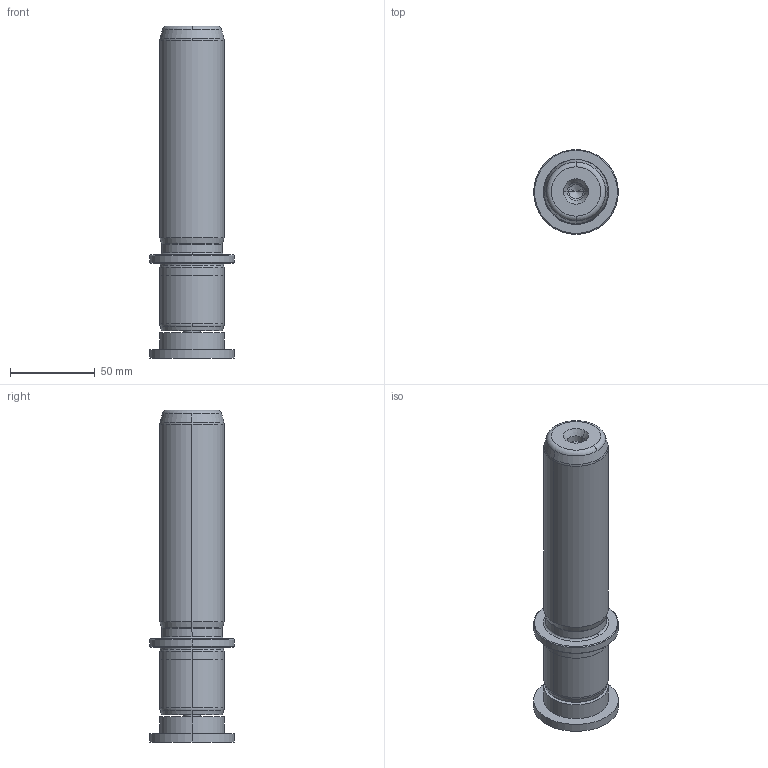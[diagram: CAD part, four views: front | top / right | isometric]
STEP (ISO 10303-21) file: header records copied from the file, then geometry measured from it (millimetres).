
FILE_DESCRIPTION((''),'2;1');
FILE_NAME('P22_038_140.stp','2009-02-16T09:15:08',(''),(''),'Mechanical Desktop 2009','Mechanical Desktop 2009',', , ');
FILE_SCHEMA(('CONFIG_CONTROL_DESIGN'));
Length unit declared in the file: millimetre
Products named in the file (2): Product; blmdl1
Assembly tree (1 placements, depth 2):
  Product
    blmdl1
Bounding box: 50 x 50 x 196 mm (x, y, z)
Volume: 223596.8 mm3; surface area: 34955.2 mm2
Topology: 3 solids, 3 shells, 99 faces, 237 edges, 149 vertices
Faces by surface type: cylinder 32, cone 28, plane 19, torus 10, bspline 10
Entity records: 3419 total; most frequent: CARTESIAN_POINT 923, DIRECTION 570, ORIENTED_EDGE 466, AXIS2_PLACEMENT_3D 246, EDGE_CURVE 233, CIRCLE 155, VERTEX_POINT 149, EDGE_LOOP 110
